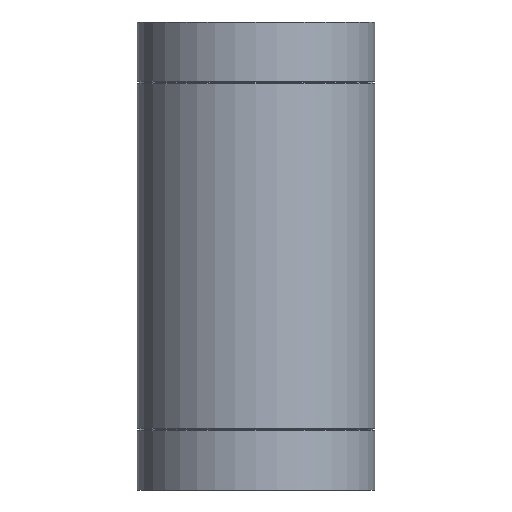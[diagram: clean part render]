
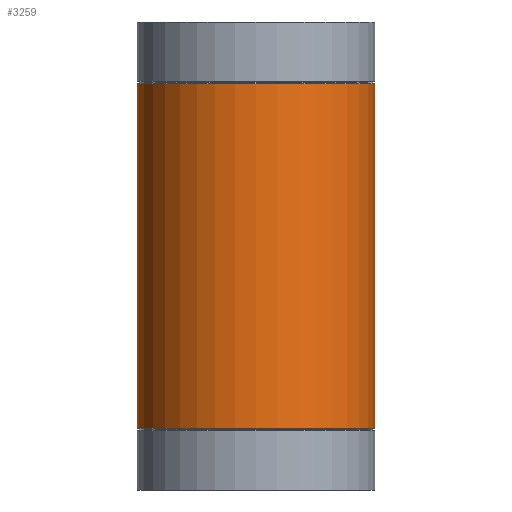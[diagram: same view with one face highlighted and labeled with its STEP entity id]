
A CAD part, front view. The second image highlights one B-rep face of the part: STEP entity #3259.
In plain terms, the highlighted cylindrical face has radius 157.5 mm (diameter 315 mm), a full revolution.
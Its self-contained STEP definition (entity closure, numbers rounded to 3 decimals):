
#39=FACE_BOUND($,#477,.T.);
#40=FACE_BOUND($,#478,.T.);
#105=B_SPLINE_CURVE_WITH_KNOTS($,3,(#4944,#4945,#4946,#4947,#4948,#4949,
#4950,#4951,#4952,#4953,#4954,#4955,#4956,#4957,#4958,#4959,#4960,#4961,
#4962,#4963,#4964,#4965,#4966,#4967,#4968,#4969,#4970,#4971,#4972,#4973,
#4974,#4975,#4976,#4977),.UNSPECIFIED.,.F.,.F.,(4,2,2,2,2,2,2,2,2,2,2,2,
2,2,2,2,4),(0.,1.939,3.878,5.817,7.756,
9.679,11.602,13.525,15.448,17.371,
19.294,21.218,23.141,25.08,27.018,
28.957,30.896),.UNSPECIFIED.);
#106=B_SPLINE_CURVE_WITH_KNOTS($,3,(#4986,#4987,#4988,#4989,#4990,#4991,
#4992,#4993,#4994,#4995,#4996,#4997,#4998,#4999,#5000,#5001,#5002,#5003,
#5004,#5005,#5006,#5007,#5008,#5009,#5010,#5011,#5012,#5013,#5014,#5015,
#5016,#5017,#5018,#5019),.UNSPECIFIED.,.F.,.F.,(4,2,2,2,2,2,2,2,2,2,2,2,
2,2,2,2,4),(0.,1.939,3.878,5.817,7.756,
9.679,11.602,13.525,15.448,17.371,
19.294,21.218,23.141,25.08,27.018,
28.957,30.896),.UNSPECIFIED.);
#124=CYLINDRICAL_SURFACE($,#3461,157.5);
#303=FACE_OUTER_BOUND($,#476,.T.);
#476=EDGE_LOOP($,(#2301));
#477=EDGE_LOOP($,(#2302));
#478=EDGE_LOOP($,(#2303,#2304,#2305,#2306));
#705=CIRCLE($,#3452,157.5);
#710=CIRCLE($,#3462,157.5);
#906=LINE($,#4983,#1185);
#907=LINE($,#4985,#1186);
#1185=VECTOR($,#3884,100.);
#1186=VECTOR($,#3885,100.);
#1462=VERTEX_POINT($,#4923);
#1469=VERTEX_POINT($,#4941);
#1470=VERTEX_POINT($,#4943);
#1471=VERTEX_POINT($,#4980);
#1472=VERTEX_POINT($,#4982);
#1473=VERTEX_POINT($,#4984);
#1792=EDGE_CURVE($,#1462,#1462,#705,.T.);
#1800=EDGE_CURVE($,#1470,#1469,#105,.T.);
#1802=EDGE_CURVE($,#1471,#1471,#710,.T.);
#1803=EDGE_CURVE($,#1472,#1470,#906,.T.);
#1804=EDGE_CURVE($,#1469,#1473,#907,.T.);
#1805=EDGE_CURVE($,#1473,#1472,#106,.T.);
#2301=ORIENTED_EDGE($,*,*,#1792,.T.);
#2302=ORIENTED_EDGE($,*,*,#1802,.T.);
#2303=ORIENTED_EDGE($,*,*,#1803,.T.);
#2304=ORIENTED_EDGE($,*,*,#1800,.T.);
#2305=ORIENTED_EDGE($,*,*,#1804,.T.);
#2306=ORIENTED_EDGE($,*,*,#1805,.T.);
#3259=ADVANCED_FACE($,(#303,#39,#40),#124,.T.);
#3452=AXIS2_PLACEMENT_3D($,#4924,#3858,#3859);
#3461=AXIS2_PLACEMENT_3D($,#4979,#3880,#3881);
#3462=AXIS2_PLACEMENT_3D($,#4981,#3882,#3883);
#3858=DIRECTION('center_axis',(0.,0.,1.));
#3859=DIRECTION('ref_axis',(-1.,0.,0.));
#3880=DIRECTION('center_axis',(0.,0.,1.));
#3881=DIRECTION('ref_axis',(-1.,0.,0.));
#3882=DIRECTION('center_axis',(0.,0.,-1.));
#3883=DIRECTION('ref_axis',(-1.,0.,0.));
#3884=DIRECTION($,(0.,0.,-1.));
#3885=DIRECTION($,(0.,0.,1.));
#4923=CARTESIAN_POINT('',(157.5,0.,-228.181));
#4924=CARTESIAN_POINT('Origin',(0.,0.,-228.181));
#4941=CARTESIAN_POINT('',(99.,122.496,-50.));
#4943=CARTESIAN_POINT('',(-99.,122.496,-50.));
#4944=CARTESIAN_POINT('Ctrl Pts',(-99.,122.496,-50.));
#4945=CARTESIAN_POINT('Ctrl Pts',(-99.,122.496,-56.463));
#4946=CARTESIAN_POINT('Ctrl Pts',(-98.358,123.023,-63.05));
#4947=CARTESIAN_POINT('Ctrl Pts',(-95.754,125.061,-75.995));
#4948=CARTESIAN_POINT('Ctrl Pts',(-93.794,126.565,-82.355));
#4949=CARTESIAN_POINT('Ctrl Pts',(-88.7,130.185,-94.456));
#4950=CARTESIAN_POINT('Ctrl Pts',(-85.564,132.298,-100.209));
#4951=CARTESIAN_POINT('Ctrl Pts',(-78.372,136.681,-110.827));
#4952=CARTESIAN_POINT('Ctrl Pts',(-74.316,138.948,-115.691));
#4953=CARTESIAN_POINT('Ctrl Pts',(-65.726,143.21,-124.281));
#4954=CARTESIAN_POINT('Ctrl Pts',(-60.88,145.369,-128.331));
#4955=CARTESIAN_POINT('Ctrl Pts',(-50.259,149.374,-135.535));
#4956=CARTESIAN_POINT('Ctrl Pts',(-44.483,151.218,-138.689));
#4957=CARTESIAN_POINT('Ctrl Pts',(-32.331,154.273,-143.804));
#4958=CARTESIAN_POINT('Ctrl Pts',(-25.943,155.486,-145.769));
#4959=CARTESIAN_POINT('Ctrl Pts',(-12.983,157.1,-148.367));
#4960=CARTESIAN_POINT('Ctrl Pts',(-6.41,157.5,-149.));
#4961=CARTESIAN_POINT('Ctrl Pts',(6.41,157.5,-149.));
#4962=CARTESIAN_POINT('Ctrl Pts',(12.983,157.1,-148.367));
#4963=CARTESIAN_POINT('Ctrl Pts',(25.943,155.486,-145.769));
#4964=CARTESIAN_POINT('Ctrl Pts',(32.331,154.273,-143.804));
#4965=CARTESIAN_POINT('Ctrl Pts',(44.483,151.218,-138.689));
#4966=CARTESIAN_POINT('Ctrl Pts',(50.259,149.374,-135.535));
#4967=CARTESIAN_POINT('Ctrl Pts',(60.88,145.369,-128.331));
#4968=CARTESIAN_POINT('Ctrl Pts',(65.726,143.21,-124.281));
#4969=CARTESIAN_POINT('Ctrl Pts',(74.316,138.948,-115.691));
#4970=CARTESIAN_POINT('Ctrl Pts',(78.372,136.681,-110.827));
#4971=CARTESIAN_POINT('Ctrl Pts',(85.564,132.298,-100.209));
#4972=CARTESIAN_POINT('Ctrl Pts',(88.7,130.185,-94.456));
#4973=CARTESIAN_POINT('Ctrl Pts',(93.794,126.565,-82.355));
#4974=CARTESIAN_POINT('Ctrl Pts',(95.754,125.061,-75.995));
#4975=CARTESIAN_POINT('Ctrl Pts',(98.358,123.023,-63.05));
#4976=CARTESIAN_POINT('Ctrl Pts',(99.,122.496,-56.463));
#4977=CARTESIAN_POINT('Ctrl Pts',(99.,122.496,-50.));
#4979=CARTESIAN_POINT('Origin',(0.,0.,0.));
#4980=CARTESIAN_POINT('',(157.5,0.,228.181));
#4981=CARTESIAN_POINT('Origin',(0.,0.,228.181));
#4982=CARTESIAN_POINT('',(-99.,122.496,50.));
#4983=CARTESIAN_POINT($,(-99.,122.496,0.));
#4984=CARTESIAN_POINT('',(99.,122.496,50.));
#4985=CARTESIAN_POINT($,(99.,122.496,0.));
#4986=CARTESIAN_POINT('Ctrl Pts',(99.,122.496,50.));
#4987=CARTESIAN_POINT('Ctrl Pts',(99.,122.496,56.463));
#4988=CARTESIAN_POINT('Ctrl Pts',(98.358,123.023,63.05));
#4989=CARTESIAN_POINT('Ctrl Pts',(95.754,125.061,75.995));
#4990=CARTESIAN_POINT('Ctrl Pts',(93.794,126.565,82.355));
#4991=CARTESIAN_POINT('Ctrl Pts',(88.7,130.185,94.456));
#4992=CARTESIAN_POINT('Ctrl Pts',(85.564,132.298,100.209));
#4993=CARTESIAN_POINT('Ctrl Pts',(78.372,136.681,110.827));
#4994=CARTESIAN_POINT('Ctrl Pts',(74.316,138.948,115.691));
#4995=CARTESIAN_POINT('Ctrl Pts',(65.726,143.21,124.281));
#4996=CARTESIAN_POINT('Ctrl Pts',(60.88,145.369,128.331));
#4997=CARTESIAN_POINT('Ctrl Pts',(50.259,149.374,135.535));
#4998=CARTESIAN_POINT('Ctrl Pts',(44.483,151.218,138.689));
#4999=CARTESIAN_POINT('Ctrl Pts',(32.331,154.273,143.804));
#5000=CARTESIAN_POINT('Ctrl Pts',(25.943,155.486,145.769));
#5001=CARTESIAN_POINT('Ctrl Pts',(12.983,157.1,148.367));
#5002=CARTESIAN_POINT('Ctrl Pts',(6.41,157.5,149.));
#5003=CARTESIAN_POINT('Ctrl Pts',(-6.41,157.5,149.));
#5004=CARTESIAN_POINT('Ctrl Pts',(-12.983,157.1,148.367));
#5005=CARTESIAN_POINT('Ctrl Pts',(-25.943,155.486,145.769));
#5006=CARTESIAN_POINT('Ctrl Pts',(-32.331,154.273,143.804));
#5007=CARTESIAN_POINT('Ctrl Pts',(-44.483,151.218,138.689));
#5008=CARTESIAN_POINT('Ctrl Pts',(-50.259,149.374,135.535));
#5009=CARTESIAN_POINT('Ctrl Pts',(-60.88,145.369,128.331));
#5010=CARTESIAN_POINT('Ctrl Pts',(-65.726,143.21,124.281));
#5011=CARTESIAN_POINT('Ctrl Pts',(-74.316,138.948,115.691));
#5012=CARTESIAN_POINT('Ctrl Pts',(-78.372,136.681,110.827));
#5013=CARTESIAN_POINT('Ctrl Pts',(-85.564,132.298,100.209));
#5014=CARTESIAN_POINT('Ctrl Pts',(-88.7,130.185,94.456));
#5015=CARTESIAN_POINT('Ctrl Pts',(-93.794,126.565,82.355));
#5016=CARTESIAN_POINT('Ctrl Pts',(-95.754,125.061,75.995));
#5017=CARTESIAN_POINT('Ctrl Pts',(-98.358,123.023,63.05));
#5018=CARTESIAN_POINT('Ctrl Pts',(-99.,122.496,56.463));
#5019=CARTESIAN_POINT('Ctrl Pts',(-99.,122.496,50.));
